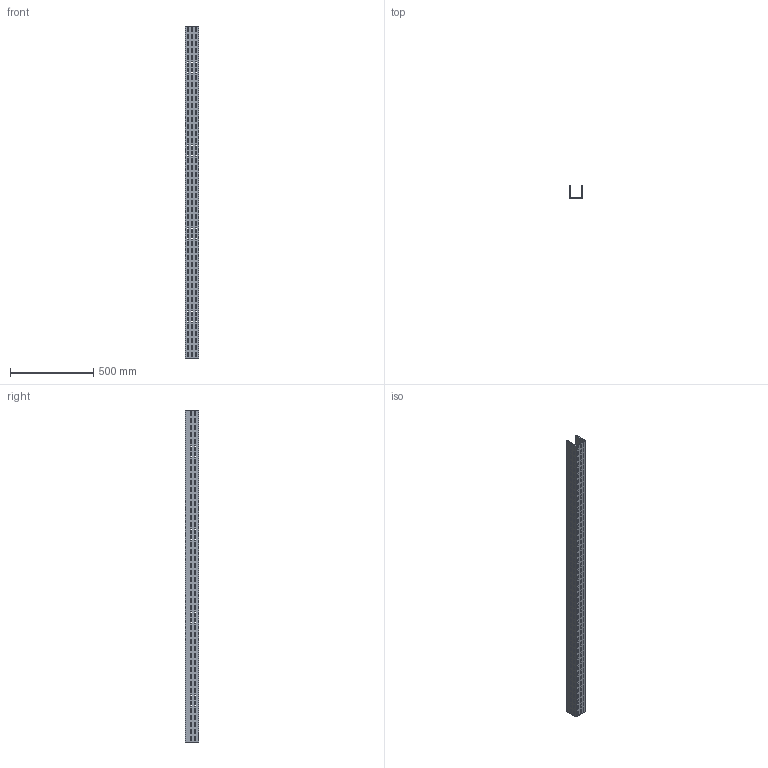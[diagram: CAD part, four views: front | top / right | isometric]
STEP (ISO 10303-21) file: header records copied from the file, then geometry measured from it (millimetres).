
FILE_DESCRIPTION (( 'STEP AP214' ), '1' );
FILE_NAME ('01F2C075.step', '2025-02-21T13:25:05', ( '' ), ( '' ), 'SwSTEP 2.0', 'SolidWorks 2023', '' );
FILE_SCHEMA (( 'AUTOMOTIVE_DESIGN' ));
Length unit declared in the file: millimetre
Products named in the file (1): 01F2C075
Bounding box: 79 x 79 x 2000 mm (x, y, z)
Volume: 1404200 mm3; surface area: 893274 mm2
Topology: 1 solids, 1 shells, 1354 faces, 4056 edges, 2704 vertices
Faces by surface type: plane 1354
Entity records: 46007 total; most frequent: CARTESIAN_POINT 8115, ORIENTED_EDGE 8112, DIRECTION 6766, EDGE_CURVE 4056, VECTOR 4056, LINE 4056, VERTEX_POINT 2704, EDGE_LOOP 2026
